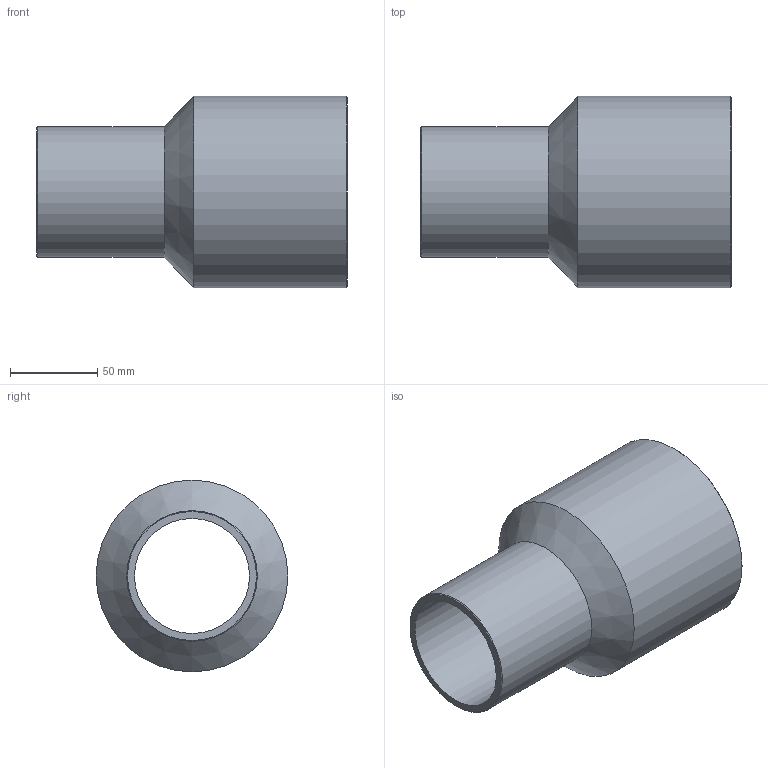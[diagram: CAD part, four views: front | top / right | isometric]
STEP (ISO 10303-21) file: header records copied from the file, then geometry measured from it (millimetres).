
FILE_DESCRIPTION(/* description */ ('Unknown'),/* implementation_level */ '2;1');
FILE_NAME(/* name */ 'RP110075B',/* time_stamp */ '2021-09-17T11:26:03+02:00',/* author */ ('Unknown'),/* organization */ ('Unknown'),/* preprocessor_version */ 'ST-DEVELOPER v16.7',/* originating_system */ 'Solid Edge',/* authorisation */ 'Unknown');
FILE_SCHEMA (('AUTOMOTIVE_DESIGN {1 0 10303 214 3 1 1}'));
Length unit declared in the file: millimetre
Products named in the file (1): RP110075B
Bounding box: 178 x 110 x 110 mm (x, y, z)
Volume: 321776 mm3; surface area: 104247.7 mm2
Topology: 1 solids, 1 shells, 10 faces, 19 edges, 11 vertices
Faces by surface type: cylinder 4, cone 4, plane 2
Full cylindrical faces by diameter (mm): 66 x1, 75 x1, 96.8 x1, 110 x1
Entity records: 238 total; most frequent: DIRECTION 42, CARTESIAN_POINT 31, AXIS2_PLACEMENT_3D 21, ORIENTED_EDGE 20, EDGE_LOOP 20, FACE_BOUND 20, EDGE_CURVE 10, VERTEX_POINT 10
